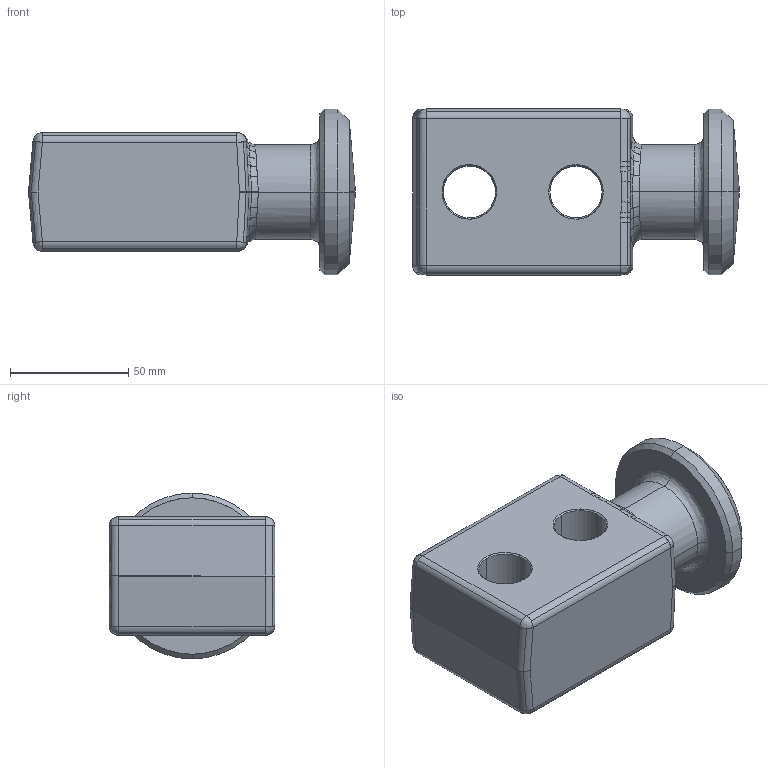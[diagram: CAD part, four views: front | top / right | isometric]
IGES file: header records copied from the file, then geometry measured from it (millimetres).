
Global section: file name: E:\UnigraphicsGraphicData\MISUMI_PRESS-PARTS\IGES\3d_chp40_03554_r00.igs; native system: NX V5.0; preprocessor: UGS NX IGES V5.0; author: MISUMI; date: 20110105.160226; units: millimetre
Bounding box: 138 x 70 x 70 mm (x, y, z)
Surface area: 43047.1 mm2 (no closed solid volume)
Topology: 0 solids, 0 shells, 183 faces, 937 edges, 923 vertices
Faces by surface type: bspline 183
